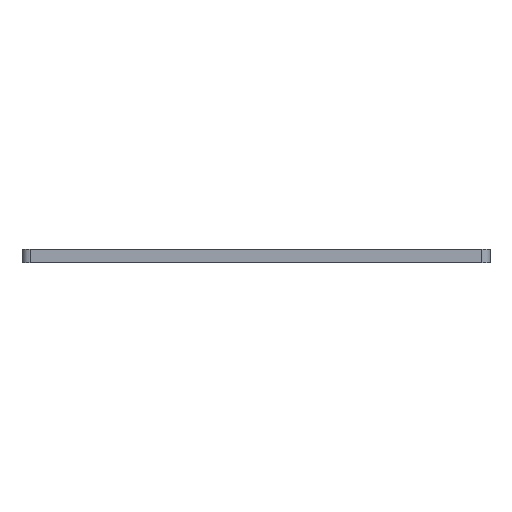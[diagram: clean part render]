
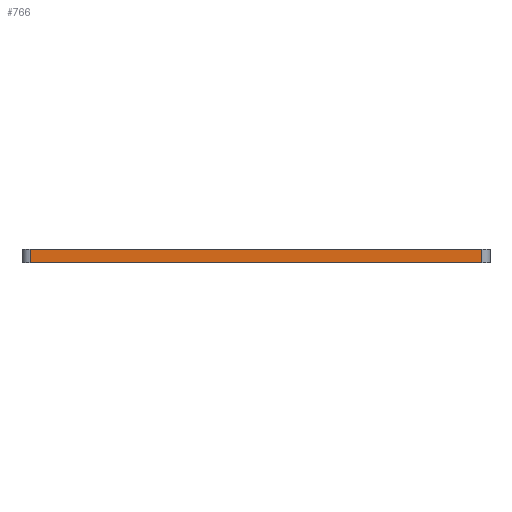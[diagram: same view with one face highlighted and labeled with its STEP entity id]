
A CAD part, front view. The second image highlights one B-rep face of the part: STEP entity #766.
In plain terms, the highlighted planar face has unit normal (0, -1, 0).
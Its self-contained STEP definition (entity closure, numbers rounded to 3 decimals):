
#5 = DIRECTION ( 'NONE',  ( 1., 0., 0. ) ) ;
#22 = LINE ( 'NONE', #427, #625 ) ;
#35 = LINE ( 'NONE', #830, #510 ) ;
#76 = ORIENTED_EDGE ( 'NONE', *, *, #456, .T. ) ;
#77 = VERTEX_POINT ( 'NONE', #174 ) ;
#84 = CARTESIAN_POINT ( 'NONE',  ( 42.5, 0., 1.25 ) ) ;
#87 = FACE_OUTER_BOUND ( 'NONE', #867, .T. ) ;
#107 = AXIS2_PLACEMENT_3D ( 'NONE', #513, #401, #296 ) ;
#145 = VECTOR ( 'NONE', #236, 1000. ) ;
#160 = LINE ( 'NONE', #84, #204 ) ;
#174 = CARTESIAN_POINT ( 'NONE',  ( -41., 0., -1.25 ) ) ;
#204 = VECTOR ( 'NONE', #5, 1000. ) ;
#236 = DIRECTION ( 'NONE',  ( 0., 0., 1. ) ) ;
#241 = CARTESIAN_POINT ( 'NONE',  ( 41., 0., -1.25 ) ) ;
#268 = ORIENTED_EDGE ( 'NONE', *, *, #756, .T. ) ;
#272 = CARTESIAN_POINT ( 'NONE',  ( -41., 0., 1.25 ) ) ;
#296 = DIRECTION ( 'NONE',  ( -1., 0., 0. ) ) ;
#303 = ORIENTED_EDGE ( 'NONE', *, *, #760, .F. ) ;
#314 = DIRECTION ( 'NONE',  ( 0., 0., -1. ) ) ;
#316 = CARTESIAN_POINT ( 'NONE',  ( 41., 0., 1.25 ) ) ;
#384 = VERTEX_POINT ( 'NONE', #272 ) ;
#401 = DIRECTION ( 'NONE',  ( 0., 1., 0. ) ) ;
#418 = CARTESIAN_POINT ( 'NONE',  ( 41., 0., 1.25 ) ) ;
#427 = CARTESIAN_POINT ( 'NONE',  ( -41., 0., 1.25 ) ) ;
#429 = LINE ( 'NONE', #316, #145 ) ;
#442 = ORIENTED_EDGE ( 'NONE', *, *, #569, .T. ) ;
#456 = EDGE_CURVE ( 'NONE', #77, #796, #35, .T. ) ;
#497 = VERTEX_POINT ( 'NONE', #418 ) ;
#510 = VECTOR ( 'NONE', #730, 1000. ) ;
#513 = CARTESIAN_POINT ( 'NONE',  ( 42.5, 0., 1.25 ) ) ;
#569 = EDGE_CURVE ( 'NONE', #384, #77, #22, .T. ) ;
#625 = VECTOR ( 'NONE', #314, 1000. ) ;
#627 = PLANE ( 'NONE',  #107 ) ;
#730 = DIRECTION ( 'NONE',  ( 1., 0., 0. ) ) ;
#756 = EDGE_CURVE ( 'NONE', #796, #497, #429, .T. ) ;
#760 = EDGE_CURVE ( 'NONE', #384, #497, #160, .T. ) ;
#766 = ADVANCED_FACE ( 'NONE', ( #87 ), #627, .F. ) ;
#796 = VERTEX_POINT ( 'NONE', #241 ) ;
#830 = CARTESIAN_POINT ( 'NONE',  ( 42.5, 0., -1.25 ) ) ;
#867 = EDGE_LOOP ( 'NONE', ( #76, #268, #303, #442 ) ) ;
